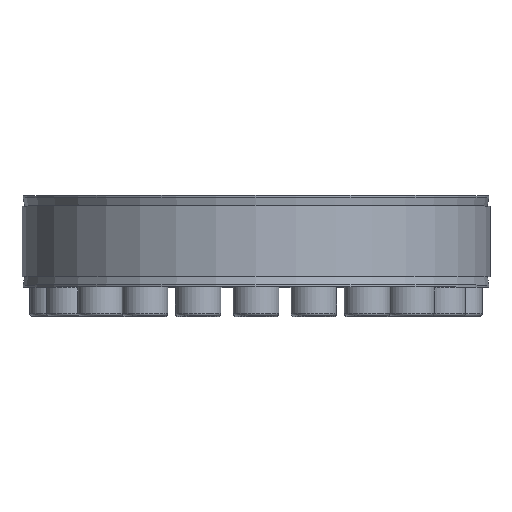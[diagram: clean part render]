
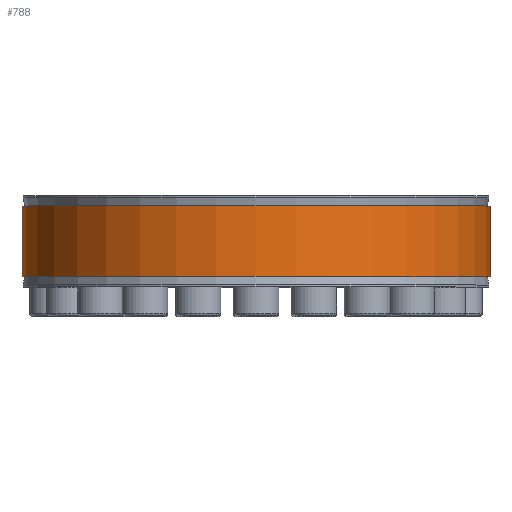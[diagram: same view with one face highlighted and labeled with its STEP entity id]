
A CAD part, top view. The second image highlights one B-rep face of the part: STEP entity #788.
In plain terms, the highlighted cylindrical face has radius 112.5 mm (diameter 225 mm), a partial arc.
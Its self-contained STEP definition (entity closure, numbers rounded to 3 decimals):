
#788 = ADVANCED_FACE( '', ( #1596 ), #1597, .T. );
#1596 = FACE_OUTER_BOUND( '', #3117, .T. );
#1597 = CYLINDRICAL_SURFACE( '', #3118, 112.5 );
#3117 = EDGE_LOOP( '', ( #4726, #4727, #4728, #4729 ) );
#3118 = AXIS2_PLACEMENT_3D( '', #4730, #4731, #4732 );
#4726 = ORIENTED_EDGE( '', *, *, #8227, .F. );
#4727 = ORIENTED_EDGE( '', *, *, #8228, .T. );
#4728 = ORIENTED_EDGE( '', *, *, #8229, .T. );
#4729 = ORIENTED_EDGE( '', *, *, #8230, .F. );
#4730 = CARTESIAN_POINT( '', ( 0., -60., 0. ) );
#4731 = DIRECTION( '', ( 0., -1., 0. ) );
#4732 = DIRECTION( '', ( 0., 0., 1. ) );
#8227 = EDGE_CURVE( '', #9196, #9197, #9198, .F. );
#8228 = EDGE_CURVE( '', #9196, #9199, #9200, .T. );
#8229 = EDGE_CURVE( '', #9199, #9201, #9202, .F. );
#8230 = EDGE_CURVE( '', #9197, #9201, #9203, .T. );
#9196 = VERTEX_POINT( '', #10624 );
#9197 = VERTEX_POINT( '', #10625 );
#9198 = LINE( '', #10626, #10627 );
#9199 = VERTEX_POINT( '', #10628 );
#9200 = CIRCLE( '', #10629, 112.5 );
#9201 = VERTEX_POINT( '', #10630 );
#9202 = LINE( '', #10631, #10632 );
#9203 = CIRCLE( '', #10633, 112.5 );
#10624 = CARTESIAN_POINT( '', ( 1.875, 17., -112.484 ) );
#10625 = CARTESIAN_POINT( '', ( 1.875, -17., -112.484 ) );
#10626 = CARTESIAN_POINT( '', ( 1.875, -60., -112.484 ) );
#10627 = VECTOR( '', #13561, 1000. );
#10628 = CARTESIAN_POINT( '', ( -1.875, 17., -112.484 ) );
#10629 = AXIS2_PLACEMENT_3D( '', #13562, #13563, #13564 );
#10630 = CARTESIAN_POINT( '', ( -1.875, -17., -112.484 ) );
#10631 = CARTESIAN_POINT( '', ( -1.875, -60., -112.484 ) );
#10632 = VECTOR( '', #13565, 1000. );
#10633 = AXIS2_PLACEMENT_3D( '', #13566, #13567, #13568 );
#13561 = DIRECTION( '', ( 0., 1., 0. ) );
#13562 = CARTESIAN_POINT( '', ( 0., 17., 0. ) );
#13563 = DIRECTION( '', ( 0., -1., 0. ) );
#13564 = DIRECTION( '', ( 0., 0., -1. ) );
#13565 = DIRECTION( '', ( 0., 1., 0. ) );
#13566 = CARTESIAN_POINT( '', ( 0., -17., 0. ) );
#13567 = DIRECTION( '', ( 0., -1., 0. ) );
#13568 = DIRECTION( '', ( 0., 0., -1. ) );
